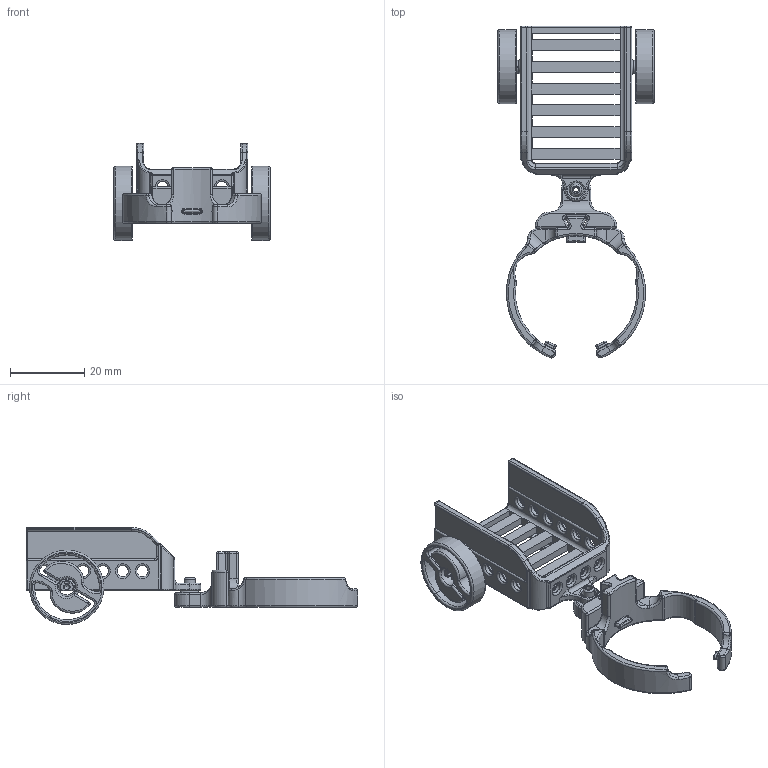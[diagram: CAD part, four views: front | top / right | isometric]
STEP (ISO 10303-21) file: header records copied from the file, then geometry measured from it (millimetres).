
FILE_DESCRIPTION(/* description */ (''),/* implementation_level */ '2;1');
FILE_NAME(/* name */ '/Users/jmac/Desktop/CAD Refresh/Evo Trailer/Evo Trailer.step',/* time_stamp */ '2022-09-28T20:26:29-06:00',/* author */ (''),/* organization */ (''),/* preprocessor_version */ 'ST-DEVELOPER v19',/* originating_system */ 'Autodesk Translation Framework v11.7.0.108',/* authorisation */ '');
FILE_SCHEMA (('AUTOMOTIVE_DESIGN { 1 0 10303 214 3 1 1 }'));
Length unit declared in the file: millimetre
Products named in the file (6): Evo Trailer_CAD Library; Rear Clip; Hitch; Wheel A; Wheel B; Trailer
Assembly tree (5 placements, depth 2):
  Evo Trailer_CAD Library
    Rear Clip
    Hitch
    Wheel A
    Wheel B
    Trailer
Bounding box: 42 x 89.19 x 26.1 mm (x, y, z)
Volume: 8679 mm3; surface area: 11147.2 mm2
Topology: 5 solids, 5 shells, 855 faces, 2019 edges, 1157 vertices
Faces by surface type: cylinder 289, bspline 214, torus 158, plane 116, sphere 70, cone 8
Full cylindrical faces by diameter (mm): 1.25 x1, 3 x17, 4 x1, 4.1 x2, 5 x2, 20 x2
Entity records: 34043 total; most frequent: CARTESIAN_POINT 14932, ORIENTED_EDGE 4006, DIRECTION 3977, EDGE_CURVE 2003, AXIS2_PLACEMENT_3D 1692, VERTEX_POINT 1157, CIRCLE 981, EDGE_LOOP 916
